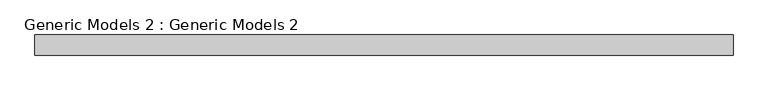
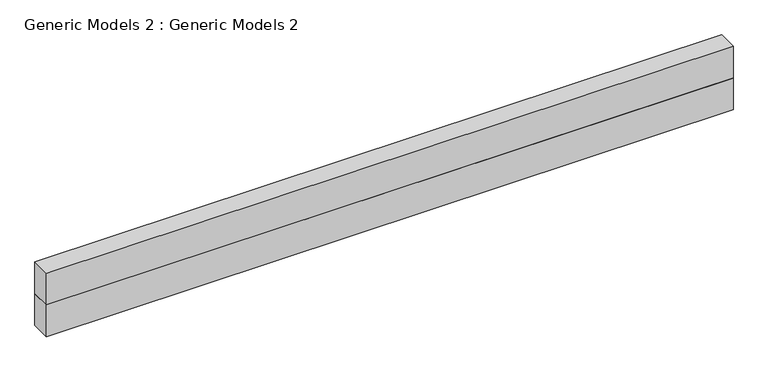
"""IFC4 building model written with IfcOpenShell, lengths in millimetres: proxy geometry, Generic Models 2 : Generic Models 2."""

from ifc_helpers import new_model, si_unit, frame, origin, place, context, project, spatial, polyline, outline, extrude, source, transform, mapped, element, save


def generic_models_2_generic_models_2_74699183(model_context):
    return source(origin(), model_context, "Body", "SweptSolid", [
        extrude(outline(polyline([(-4200.0, -4047.6885624), (-11077.8516447, -4047.6885624), (-11077.8516447, -3849.4449025), (-4200.0, -3849.4449025), (-4200.0, -4047.6885624)])), frame((0.0, 0.0, 3000.0), z_axis=(0.0, 0.0, 1.0), x_axis=(1.0, 0.0, 0.0)), (0.0, 0.0, 1.0), 336.4),
        extrude(outline(polyline([(-4200.0, -4047.6885624), (-11077.8516447, -4047.6885624), (-11077.8516447, -3849.4449025), (-4200.0, -3849.4449025), (-4200.0, -4047.6885624)])), frame((0.0, 0.0, 3336.4), z_axis=(0.0, 0.0, 1.0), x_axis=(1.0, 0.0, 0.0)), (0.0, 0.0, 1.0), 336.4),
    ])


if __name__ == "__main__":
    model = new_model("IFC4")
    model_context = context("Model", 3, world=origin())
    ifc_project = project(units=[si_unit("LENGTHUNIT", "METRE", prefix="MILLI")], contexts=[model_context])
    site = spatial("IfcSite", under=ifc_project)
    building = spatial("IfcBuilding", under=site)
    placement = place(None, origin())
    generic_models_2_generic_models_2_shape = generic_models_2_generic_models_2_74699183(model_context)
    element("IfcBuildingElementProxy", 1, Name="Generic Models 2 : Generic Models 2", ObjectType="Generic Models 2 : Generic Models 2", at=placement, inside=building, context=model_context, shape_type="MappedRepresentation", body=[
        mapped(generic_models_2_generic_models_2_shape, transform((0.0, 0.0, 0.0), x_axis=(1.0, 0.0, 0.0), y_axis=(0.0, 1.0, 0.0), z_axis=(0.0, 0.0, 1.0))),
    ])
    save(model, "model.ifc")
